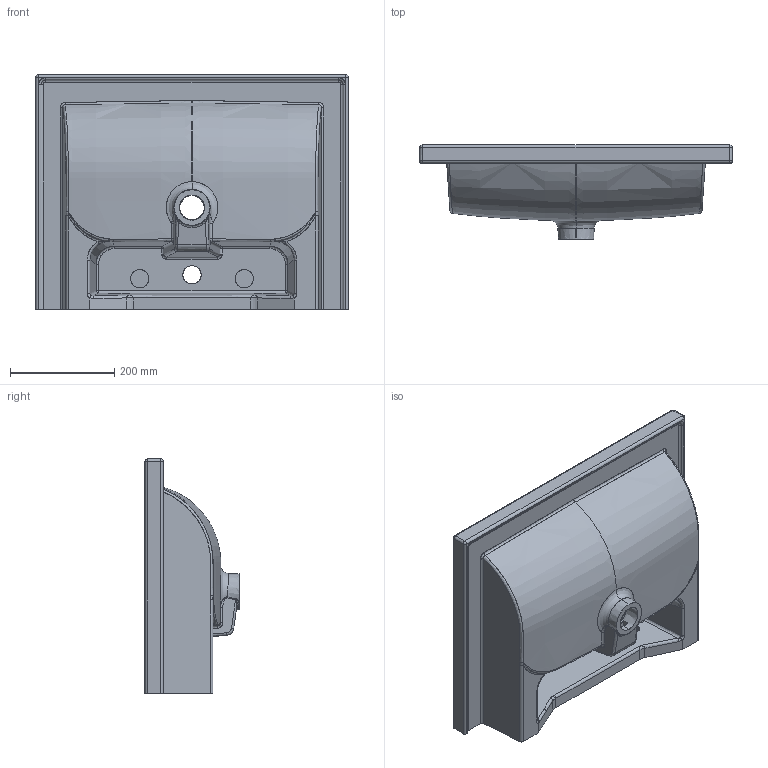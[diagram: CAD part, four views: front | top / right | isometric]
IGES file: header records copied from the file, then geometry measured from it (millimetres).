
Start section: SolidWorks IGES file using analytic representation for surfaces
Global section: file name: K:\lavabi tecla 3D IGS\a. MOOD (4)\MOOD45X60 MD01011.IGS; native system: SolidWorks 2013; preprocessor: SolidWorks 2013; author: UTENTE 1; date: 140521.163840; units: millimetre
Bounding box: 598.6 x 180 x 449.3 mm (x, y, z)
Surface area: 983300.4 mm2 (no closed solid volume)
Topology: 0 solids, 0 shells, 231 faces, 2923 edges, 2919 vertices
Faces by surface type: bspline 146, revolution 85
